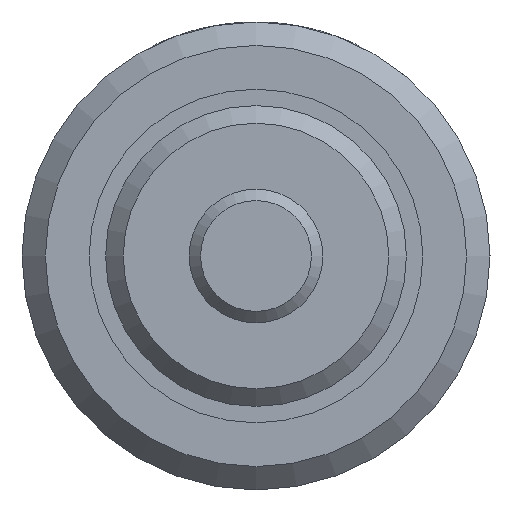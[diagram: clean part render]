
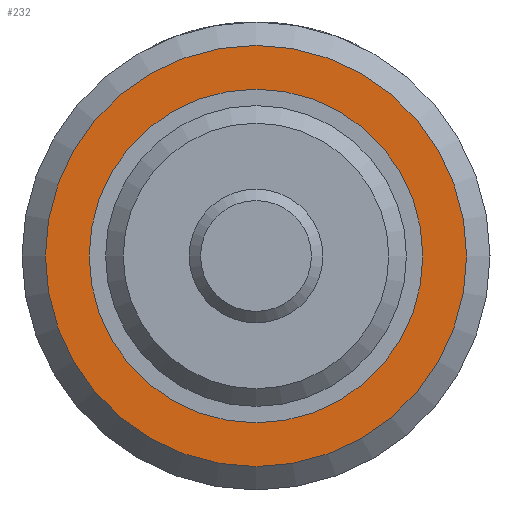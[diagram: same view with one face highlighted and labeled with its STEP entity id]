
A CAD part, left-side view. The second image highlights one B-rep face of the part: STEP entity #232.
In plain terms, the highlighted planar face has unit normal (-1, 0, 0).
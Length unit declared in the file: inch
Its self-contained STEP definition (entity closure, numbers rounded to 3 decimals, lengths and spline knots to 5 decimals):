
#232 = ADVANCED_FACE( '', ( #485, #486 ), #487, .F. );
#485 = FACE_OUTER_BOUND( '', #733, .T. );
#486 = FACE_BOUND( '', #734, .T. );
#487 = PLANE( '', #735 );
#733 = EDGE_LOOP( '', ( #1150 ) );
#734 = EDGE_LOOP( '', ( #1151 ) );
#735 = AXIS2_PLACEMENT_3D( '', #1152, #1153, #1154 );
#1150 = ORIENTED_EDGE( '', *, *, #1234, .F. );
#1151 = ORIENTED_EDGE( '', *, *, #1300, .T. );
#1152 = CARTESIAN_POINT( '', ( 0.5, 0.312, 0. ) );
#1153 = DIRECTION( '', ( 1., 0., 0. ) );
#1154 = DIRECTION( '', ( 0., 0., -1. ) );
#1234 = EDGE_CURVE( '', #1398, #1398, #1399, .T. );
#1300 = EDGE_CURVE( '', #1508, #1508, #1509, .T. );
#1398 = VERTEX_POINT( '', #1640 );
#1399 = CIRCLE( '', #1641, 0.39375 );
#1508 = VERTEX_POINT( '', #1909 );
#1509 = CIRCLE( '', #1910, 0.312 );
#1640 = CARTESIAN_POINT( '', ( 0.5, 0., -0.39375 ) );
#1641 = AXIS2_PLACEMENT_3D( '', #2158, #2159, #2160 );
#1909 = CARTESIAN_POINT( '', ( 0.5, 0., -0.312 ) );
#1910 = AXIS2_PLACEMENT_3D( '', #2248, #2249, #2250 );
#2158 = CARTESIAN_POINT( '', ( 0.5, 0., 0. ) );
#2159 = DIRECTION( '', ( 1., 0., 0. ) );
#2160 = DIRECTION( '', ( 0., 0., -1. ) );
#2248 = CARTESIAN_POINT( '', ( 0.5, 0., 0. ) );
#2249 = DIRECTION( '', ( 1., 0., 0. ) );
#2250 = DIRECTION( '', ( 0., 0., -1. ) );
